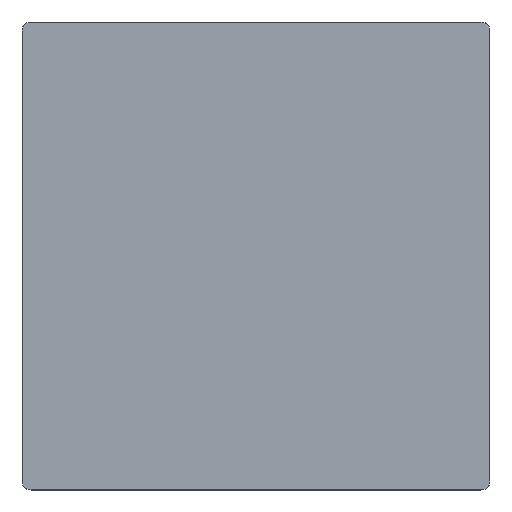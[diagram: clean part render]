
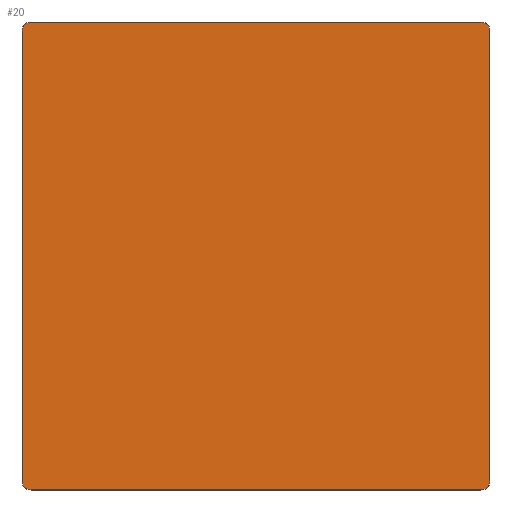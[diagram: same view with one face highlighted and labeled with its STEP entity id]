
A CAD part, top view. The second image highlights one B-rep face of the part: STEP entity #20.
In plain terms, the highlighted planar face has unit normal (0, 0, 1).
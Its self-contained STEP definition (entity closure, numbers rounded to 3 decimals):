
#20=ADVANCED_FACE($,(#44),#298,.T.);
#44=FACE_OUTER_BOUND($,#68,.T.);
#68=EDGE_LOOP($,(#102,#103,#104,#105,#106,#107,#108,#109));
#102=ORIENTED_EDGE($,*,*,#213,.F.);
#103=ORIENTED_EDGE($,*,*,#204,.F.);
#104=ORIENTED_EDGE($,*,*,#212,.F.);
#105=ORIENTED_EDGE($,*,*,#203,.F.);
#106=ORIENTED_EDGE($,*,*,#211,.F.);
#107=ORIENTED_EDGE($,*,*,#202,.F.);
#108=ORIENTED_EDGE($,*,*,#210,.F.);
#109=ORIENTED_EDGE($,*,*,#205,.F.);
#202=EDGE_CURVE($,#261,#260,#340,.T.);
#203=EDGE_CURVE($,#263,#262,#341,.T.);
#204=EDGE_CURVE($,#265,#264,#342,.T.);
#205=EDGE_CURVE($,#267,#266,#343,.T.);
#210=EDGE_CURVE($,#266,#261,#316,.T.);
#211=EDGE_CURVE($,#260,#263,#317,.T.);
#212=EDGE_CURVE($,#262,#265,#318,.T.);
#213=EDGE_CURVE($,#264,#267,#319,.T.);
#260=VERTEX_POINT($,#626);
#261=VERTEX_POINT($,#627);
#262=VERTEX_POINT($,#628);
#263=VERTEX_POINT($,#629);
#264=VERTEX_POINT($,#630);
#265=VERTEX_POINT($,#631);
#266=VERTEX_POINT($,#632);
#267=VERTEX_POINT($,#633);
#298=PLANE($,#456);
#316=(
BOUNDED_CURVE()
B_SPLINE_CURVE(2,(#520,#521,#522),.UNSPECIFIED.,.F.,.F.)
B_SPLINE_CURVE_WITH_KNOTS((3,3),(-1.,0.),.UNSPECIFIED.)
CURVE()
GEOMETRIC_REPRESENTATION_ITEM()
RATIONAL_B_SPLINE_CURVE((1.,0.707,1.))
REPRESENTATION_ITEM($)
);
#317=(
BOUNDED_CURVE()
B_SPLINE_CURVE(2,(#523,#524,#525),.UNSPECIFIED.,.F.,.F.)
B_SPLINE_CURVE_WITH_KNOTS((3,3),(0.,1.),.UNSPECIFIED.)
CURVE()
GEOMETRIC_REPRESENTATION_ITEM()
RATIONAL_B_SPLINE_CURVE((1.,0.707,1.))
REPRESENTATION_ITEM($)
);
#318=(
BOUNDED_CURVE()
B_SPLINE_CURVE(2,(#526,#527,#528),.UNSPECIFIED.,.F.,.F.)
B_SPLINE_CURVE_WITH_KNOTS((3,3),(0.,1.),.UNSPECIFIED.)
CURVE()
GEOMETRIC_REPRESENTATION_ITEM()
RATIONAL_B_SPLINE_CURVE((1.,0.707,1.))
REPRESENTATION_ITEM($)
);
#319=(
BOUNDED_CURVE()
B_SPLINE_CURVE(2,(#529,#530,#531),.UNSPECIFIED.,.F.,.F.)
B_SPLINE_CURVE_WITH_KNOTS((3,3),(0.,1.),.UNSPECIFIED.)
CURVE()
GEOMETRIC_REPRESENTATION_ITEM()
RATIONAL_B_SPLINE_CURVE((1.,0.707,1.))
REPRESENTATION_ITEM($)
);
#340=B_SPLINE_CURVE_WITH_KNOTS($,1,(#500,#501),.UNSPECIFIED.,.F.,.F.,(2,
2),(27.,1373.),.UNSPECIFIED.);
#341=B_SPLINE_CURVE_WITH_KNOTS($,1,(#502,#503),.UNSPECIFIED.,.F.,.F.,(2,
2),(27.,1373.),.UNSPECIFIED.);
#342=B_SPLINE_CURVE_WITH_KNOTS($,1,(#504,#505),.UNSPECIFIED.,.F.,.F.,(2,
2),(27.,1373.),.UNSPECIFIED.);
#343=B_SPLINE_CURVE_WITH_KNOTS($,1,(#506,#507),.UNSPECIFIED.,.F.,.F.,(2,
2),(27.,1373.),.UNSPECIFIED.);
#456=AXIS2_PLACEMENT_3D($,#566,#475,$);
#475=DIRECTION($,(0.,0.,1.));
#500=CARTESIAN_POINT($,(1931.403,-3215.057,15.));
#501=CARTESIAN_POINT($,(1931.403,-1869.057,15.));
#502=CARTESIAN_POINT($,(1958.403,-1842.057,15.));
#503=CARTESIAN_POINT($,(3304.403,-1842.057,15.));
#504=CARTESIAN_POINT($,(3331.403,-1869.057,15.));
#505=CARTESIAN_POINT($,(3331.403,-3215.057,15.));
#506=CARTESIAN_POINT($,(3304.403,-3242.057,15.));
#507=CARTESIAN_POINT($,(1958.403,-3242.057,15.));
#520=CARTESIAN_POINT($,(1958.403,-3242.057,15.));
#521=CARTESIAN_POINT($,(1931.403,-3242.057,15.));
#522=CARTESIAN_POINT($,(1931.403,-3215.057,15.));
#523=CARTESIAN_POINT($,(1931.403,-1869.057,15.));
#524=CARTESIAN_POINT($,(1931.403,-1842.057,15.));
#525=CARTESIAN_POINT($,(1958.403,-1842.057,15.));
#526=CARTESIAN_POINT($,(3304.403,-1842.057,15.));
#527=CARTESIAN_POINT($,(3331.403,-1842.057,15.));
#528=CARTESIAN_POINT($,(3331.403,-1869.057,15.));
#529=CARTESIAN_POINT($,(3331.403,-3215.057,15.));
#530=CARTESIAN_POINT($,(3331.403,-3242.057,15.));
#531=CARTESIAN_POINT($,(3304.403,-3242.057,15.));
#566=CARTESIAN_POINT($,(1931.403,-3242.057,15.));
#626=CARTESIAN_POINT($,(1931.403,-1869.057,15.));
#627=CARTESIAN_POINT($,(1931.403,-3215.057,15.));
#628=CARTESIAN_POINT($,(3304.403,-1842.057,15.));
#629=CARTESIAN_POINT($,(1958.403,-1842.057,15.));
#630=CARTESIAN_POINT($,(3331.403,-3215.057,15.));
#631=CARTESIAN_POINT($,(3331.403,-1869.057,15.));
#632=CARTESIAN_POINT($,(1958.403,-3242.057,15.));
#633=CARTESIAN_POINT($,(3304.403,-3242.057,15.));
